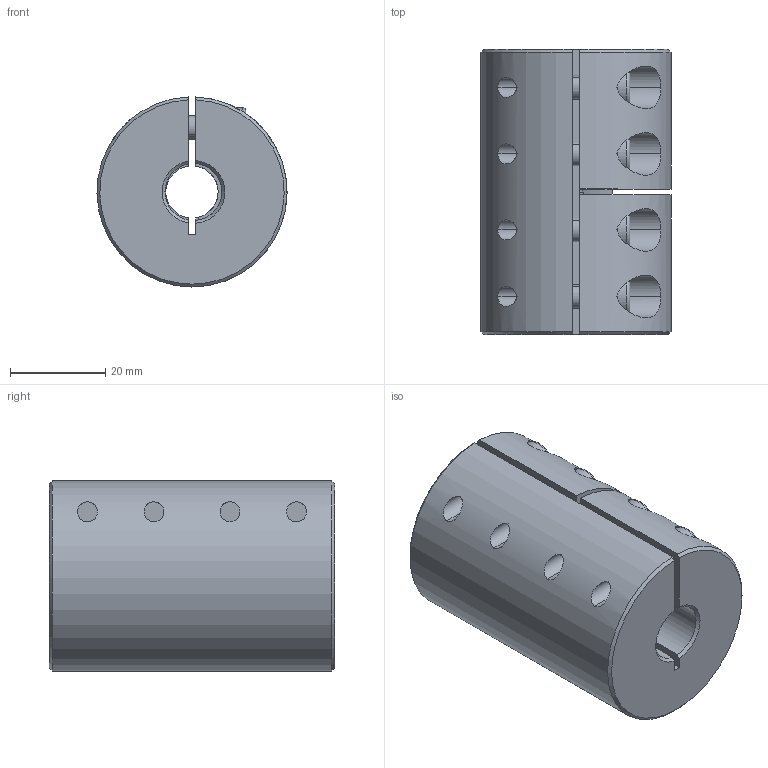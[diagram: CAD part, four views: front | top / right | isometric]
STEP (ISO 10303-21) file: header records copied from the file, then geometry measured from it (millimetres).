
FILE_DESCRIPTION (( 'STEP AP214' ), '1' );
FILE_NAME ('LL-B-D40L60-11-12½¨Ä£.STEP', '2022-07-22T00:55:56', ( '' ), ( '' ), 'SwSTEP 2.0', 'SolidWorks 2022', '' );
FILE_SCHEMA (( 'AUTOMOTIVE_DESIGN' ));
Length unit declared in the file: millimetre
Products named in the file (1): LL-B-D40L60-11-12膘耀
Bounding box: 40 x 60 x 39.99 mm (x, y, z)
Volume: 65497.1 mm3; surface area: 17378.2 mm2
Topology: 1 solids, 1 shells, 182 faces, 463 edges, 291 vertices
Faces by surface type: plane 88, cylinder 71, cone 15, torus 8
Entity records: 6015 total; most frequent: CARTESIAN_POINT 1525, DIRECTION 971, ORIENTED_EDGE 910, EDGE_CURVE 455, AXIS2_PLACEMENT_3D 377, VERTEX_POINT 291, LINE 217, VECTOR 217
